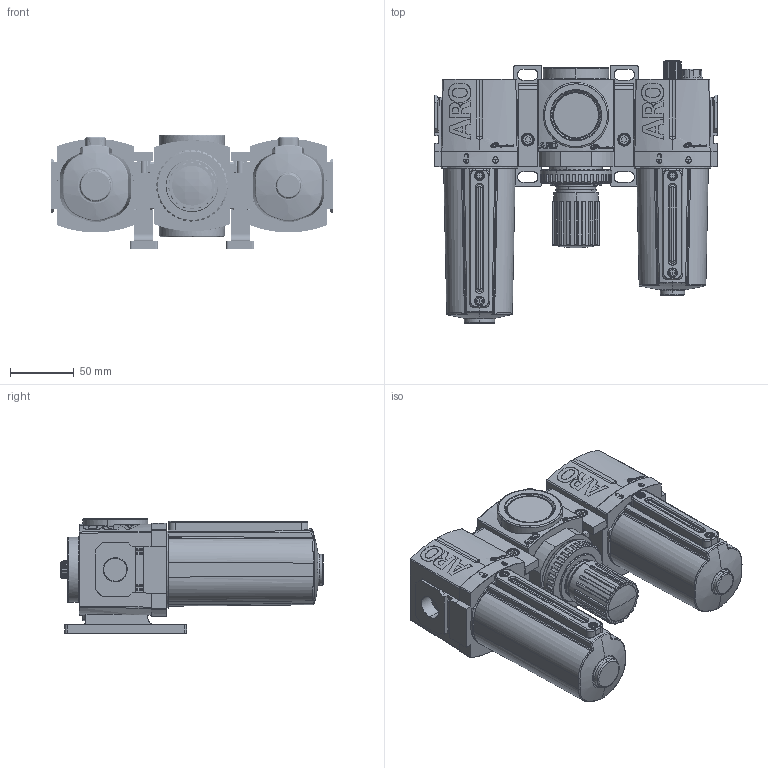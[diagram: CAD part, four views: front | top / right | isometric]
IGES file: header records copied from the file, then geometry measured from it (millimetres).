
Global section: file name: C:\Documents and Settings\szeedyk\Desktop\C383X1-81X_01.igs; native system: NX V4.0; preprocessor: UGS NX IGES V4.0; date: 20090206.141920; units: inch
Bounding box: 220.8 x 205.5 x 89.8 mm (x, y, z)
Surface area: 189514 mm2 (no closed solid volume)
Topology: 0 solids, 0 shells, 3835 faces, 23337 edges, 23299 vertices
Faces by surface type: bspline 3835
